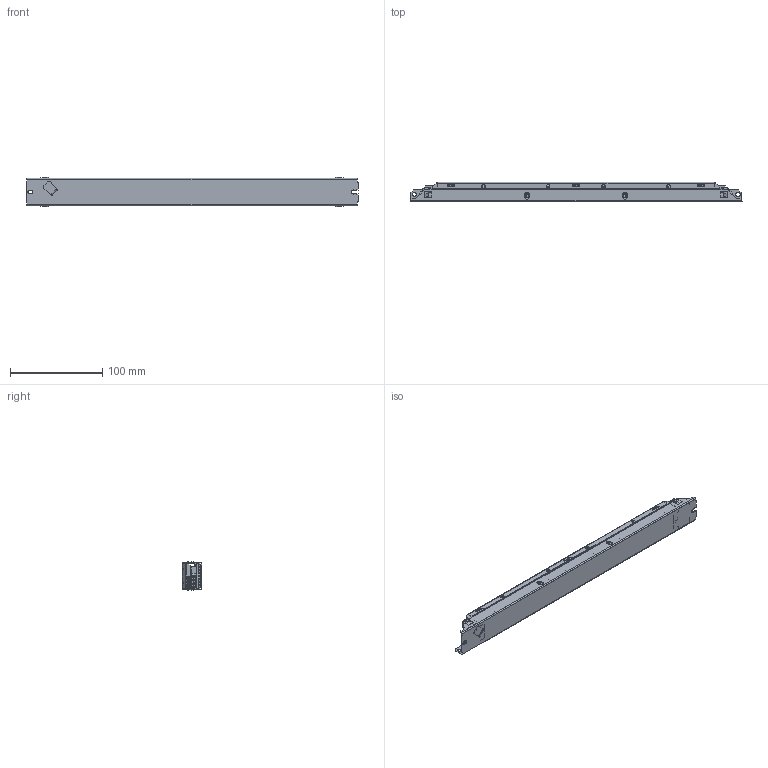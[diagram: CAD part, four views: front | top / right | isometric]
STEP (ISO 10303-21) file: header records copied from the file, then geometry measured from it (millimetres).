
FILE_DESCRIPTION (( 'STEP AP214' ), '1' );
FILE_NAME ('QTP5 2lp 2nd.STEP', '2008-12-16T15:47:39', ( 'OSRAM GmbH' ), ( 'Osram GmbH' ), 'SwSTEP 2.0', 'SolidWorks 2007', '' );
FILE_SCHEMA (( 'AUTOMOTIVE_DESIGN' ));
Length unit declared in the file: millimetre
Products named in the file (7): ZNN 1200240 000 00 D_Flat Pattern; ZNN 2416712 000 00 A; ZNN 2127326 000 00 A_Standard; PCB 339x27_QTi _Assembly; Wago251_3-polig; QTP5 2lp 2nd; Wago251_6-polig
Assembly tree (7 placements, depth 2):
  QTP5 2lp 2nd
    Wago251_3-polig
    PCB 339x27_QTi _Assembly
    ZNN 2127326 000 00 A_Standard  x2
    Wago251_6-polig
    ZNN 2416712 000 00 A
    ZNN 1200240 000 00 D_Flat Pattern
Bounding box: 359 x 21 x 31.39 mm (x, y, z)
Volume: 36207.5 mm3; surface area: 100442.2 mm2
Topology: 7 solids, 7 shells, 2368 faces, 6315 edges, 4056 vertices
Faces by surface type: plane 1494, cylinder 442, bspline 392, sphere 40
Entity records: 68161 total; most frequent: CARTESIAN_POINT 21520, ORIENTED_EDGE 9864, DIRECTION 8398, EDGE_CURVE 4932, VECTOR 3574, LINE 3574, VERTEX_POINT 3141, AXIS2_PLACEMENT_3D 2412
